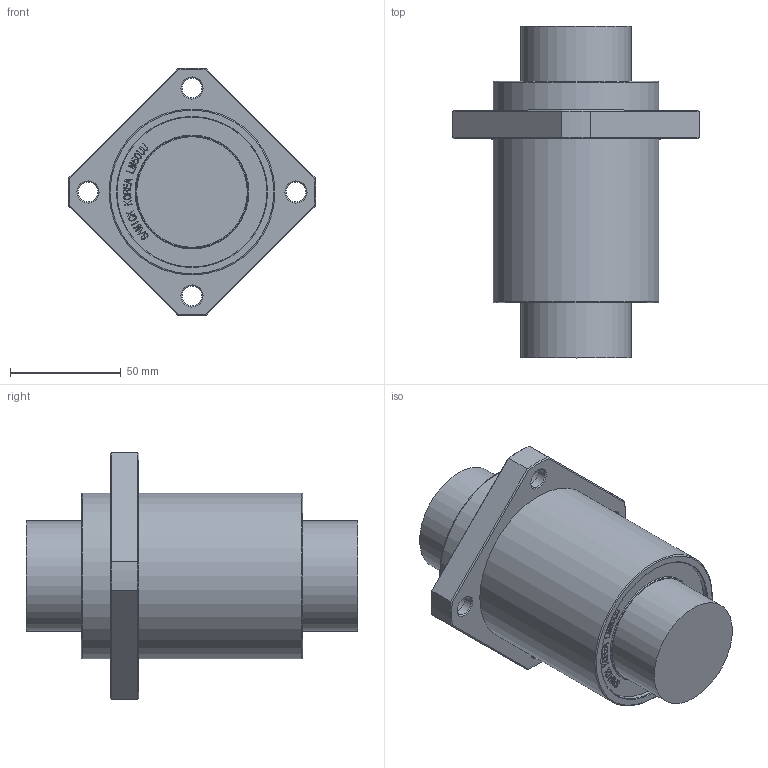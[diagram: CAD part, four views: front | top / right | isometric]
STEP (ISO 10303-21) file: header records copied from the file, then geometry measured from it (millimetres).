
FILE_DESCRIPTION(/* description */ (''),/* implementation_level */ '2;1');
FILE_NAME(/* name */ 'W:\(01) 2024년 홈페이지 CAD파일 최신화\LMEKP\IPT\LMEKP50UU.stp',/* time_stamp */ '2025-01-25T12:56:01+09:00',/* author */ ('서우현'),/* organization */ (''),/* preprocessor_version */ 'ST-DEVELOPER v17.2',/* originating_system */ 'Autodesk Inventor 2019',/* authorisation */ '');
FILE_SCHEMA (('AUTOMOTIVE_DESIGN { 1 0 10303 214 3 1 1 }'));
Length unit declared in the file: millimetre
Products named in the file (1): LM5
Bounding box: 111.91 x 150 x 111.91 mm (x, y, z)
Volume: 567095.1 mm3; surface area: 50547.1 mm2
Topology: 1 solids, 1 shells, 880 faces, 2466 edges, 1644 vertices
Faces by surface type: bspline 600, plane 240, cone 20, cylinder 18, torus 2
Full cylindrical faces by diameter (mm): 9 x4, 14 x4, 50 x2, 67.7 x2, 75 x2
Entity records: 30112 total; most frequent: CARTESIAN_POINT 11083, ORIENTED_EDGE 4932, EDGE_CURVE 2466, DIRECTION 1902, VERTEX_POINT 1644, B_SPLINE_CURVE_WITH_KNOTS 1200, LINE 1160, VECTOR 1160
